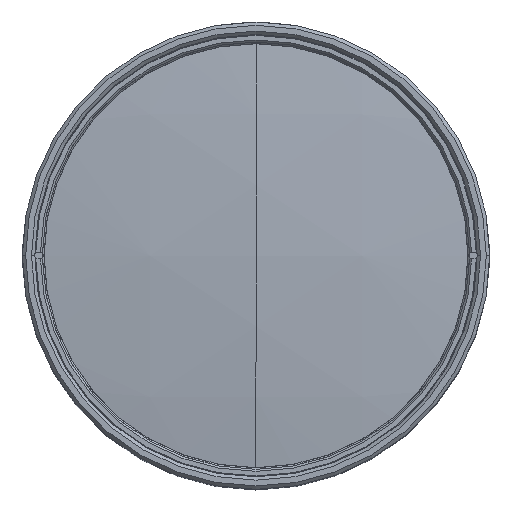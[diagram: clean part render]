
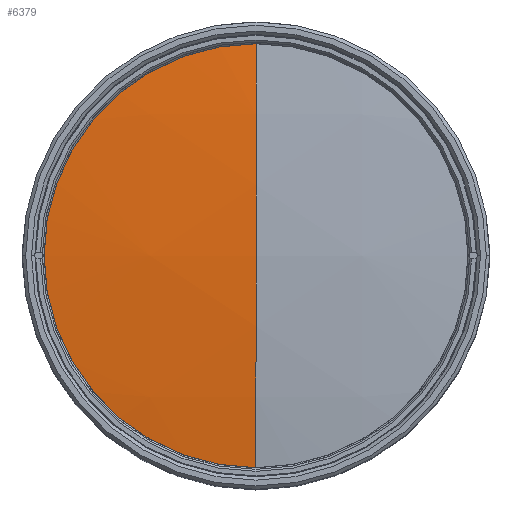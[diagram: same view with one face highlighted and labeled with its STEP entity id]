
A CAD part, top view. The second image highlights one B-rep face of the part: STEP entity #6379.
In plain terms, the highlighted spherical face has radius 264 mm.
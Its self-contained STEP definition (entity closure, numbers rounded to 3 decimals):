
#1065 = DIRECTION ( 'NONE',  ( -1., 0., 0. ) ) ;
#1384 = DIRECTION ( 'NONE',  ( 1., 0., 0. ) ) ;
#2210 = ORIENTED_EDGE ( 'NONE', *, *, #6535, .T. ) ;
#2720 = EDGE_CURVE ( 'NONE', #22585, #15116, #14199, .T. ) ;
#2729 = AXIS2_PLACEMENT_3D ( 'NONE', #7904, #1384, #25765 ) ;
#4020 = SPHERICAL_SURFACE ( 'NONE', #8680, 264. ) ;
#4864 = CIRCLE ( 'NONE', #18475, 264. ) ;
#6379 = ADVANCED_FACE ( 'NONE', ( #12001 ), #4020, .T. ) ;
#6484 = CIRCLE ( 'NONE', #19253, 31.75 ) ;
#6535 = EDGE_CURVE ( 'NONE', #23127, #15116, #4864, .T. ) ;
#6963 = CARTESIAN_POINT ( 'NONE',  ( 0., 31.75, 101.284 ) ) ;
#7416 = CARTESIAN_POINT ( 'NONE',  ( -31.75, 0., 101.284 ) ) ;
#7904 = CARTESIAN_POINT ( 'NONE',  ( 0., 0., -160.8 ) ) ;
#7984 = DIRECTION ( 'NONE',  ( 0., 0., 1. ) ) ;
#8680 = AXIS2_PLACEMENT_3D ( 'NONE', #12135, #9745, #26015 ) ;
#9649 = ORIENTED_EDGE ( 'NONE', *, *, #2720, .F. ) ;
#9745 = DIRECTION ( 'NONE',  ( -1., 0., 0. ) ) ;
#10473 = CIRCLE ( 'NONE', #24947, 31.75 ) ;
#11158 = DIRECTION ( 'NONE',  ( -1., 0., 0. ) ) ;
#12001 = FACE_OUTER_BOUND ( 'NONE', #21109, .T. ) ;
#12135 = CARTESIAN_POINT ( 'NONE',  ( 0., 0., -160.8 ) ) ;
#12450 = EDGE_CURVE ( 'NONE', #22585, #26301, #10473, .T. ) ;
#14162 = ORIENTED_EDGE ( 'NONE', *, *, #23240, .T. ) ;
#14199 = CIRCLE ( 'NONE', #2729, 264. ) ;
#14787 = DIRECTION ( 'NONE',  ( 0., 0., 1. ) ) ;
#15116 = VERTEX_POINT ( 'NONE', #18858 ) ;
#15589 = CARTESIAN_POINT ( 'NONE',  ( 0., 0., -160.8 ) ) ;
#15971 = DIRECTION ( 'NONE',  ( -1., 0., 0. ) ) ;
#18475 = AXIS2_PLACEMENT_3D ( 'NONE', #15589, #1065, #23722 ) ;
#18858 = CARTESIAN_POINT ( 'NONE',  ( 0., 0., 103.2 ) ) ;
#19253 = AXIS2_PLACEMENT_3D ( 'NONE', #23042, #14787, #11158 ) ;
#19847 = CARTESIAN_POINT ( 'NONE',  ( 0., 0., 101.284 ) ) ;
#21109 = EDGE_LOOP ( 'NONE', ( #21952, #14162, #2210, #9649 ) ) ;
#21952 = ORIENTED_EDGE ( 'NONE', *, *, #12450, .T. ) ;
#22585 = VERTEX_POINT ( 'NONE', #6963 ) ;
#23042 = CARTESIAN_POINT ( 'NONE',  ( 0., 0., 101.284 ) ) ;
#23127 = VERTEX_POINT ( 'NONE', #26249 ) ;
#23240 = EDGE_CURVE ( 'NONE', #26301, #23127, #6484, .T. ) ;
#23722 = DIRECTION ( 'NONE',  ( 0., -1., 0. ) ) ;
#24947 = AXIS2_PLACEMENT_3D ( 'NONE', #19847, #7984, #15971 ) ;
#25765 = DIRECTION ( 'NONE',  ( 0., 0., -1. ) ) ;
#26015 = DIRECTION ( 'NONE',  ( 0., 1., 0. ) ) ;
#26249 = CARTESIAN_POINT ( 'NONE',  ( 0., -31.75, 101.284 ) ) ;
#26301 = VERTEX_POINT ( 'NONE', #7416 ) ;
